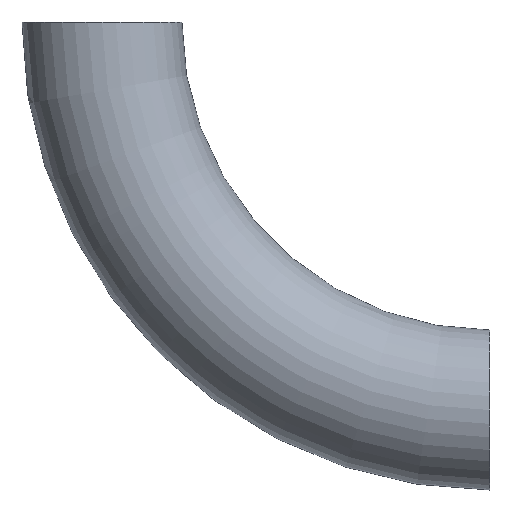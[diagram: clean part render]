
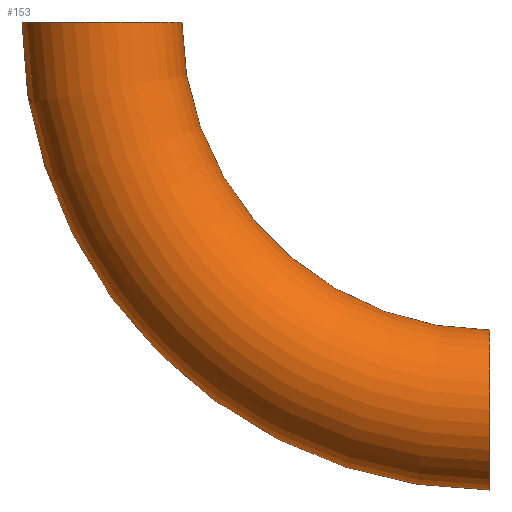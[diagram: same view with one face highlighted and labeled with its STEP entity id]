
A CAD part, front view. The second image highlights one B-rep face of the part: STEP entity #153.
In plain terms, the highlighted toroidal (fillet/blend) face has major radius 313 mm and minor radius 64.5 mm.
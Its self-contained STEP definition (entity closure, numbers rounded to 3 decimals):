
#1 = EDGE_CURVE ( 'NONE', #140, #199, #8, .T. ) ;
#8 = CIRCLE ( 'NONE', #143, 377.5 ) ;
#11 = VERTEX_POINT ( 'NONE', #39 ) ;
#33 = CARTESIAN_POINT ( 'NONE',  ( -377.5, 0., 0. ) ) ;
#39 = CARTESIAN_POINT ( 'NONE',  ( -248.5, 0., 0. ) ) ;
#43 = ORIENTED_EDGE ( 'NONE', *, *, #108, .F. ) ;
#45 = ORIENTED_EDGE ( 'NONE', *, *, #1, .F. ) ;
#49 = CARTESIAN_POINT ( 'NONE',  ( 0., 0., -313. ) ) ;
#52 = TOROIDAL_SURFACE ( 'NONE', #218, 313., 64.5 ) ;
#61 = ORIENTED_EDGE ( 'NONE', *, *, #112, .T. ) ;
#66 = CARTESIAN_POINT ( 'NONE',  ( 0., 0., 0. ) ) ;
#69 = AXIS2_PLACEMENT_3D ( 'NONE', #66, #188, #209 ) ;
#78 = VERTEX_POINT ( 'NONE', #221 ) ;
#86 = DIRECTION ( 'NONE',  ( 0., 0., 1. ) ) ;
#94 = DIRECTION ( 'NONE',  ( 0., 1., 0. ) ) ;
#106 = DIRECTION ( 'NONE',  ( 0., 0., 1. ) ) ;
#108 = EDGE_CURVE ( 'NONE', #199, #11, #110, .T. ) ;
#110 = CIRCLE ( 'NONE', #172, 64.5 ) ;
#112 = EDGE_CURVE ( 'NONE', #78, #11, #164, .T. ) ;
#118 = EDGE_CURVE ( 'NONE', #140, #78, #194, .T. ) ;
#126 = CARTESIAN_POINT ( 'NONE',  ( 0., 0., -377.5 ) ) ;
#140 = VERTEX_POINT ( 'NONE', #126 ) ;
#141 = EDGE_LOOP ( 'NONE', ( #45, #156, #61, #43 ) ) ;
#143 = AXIS2_PLACEMENT_3D ( 'NONE', #162, #94, #201 ) ;
#145 = DIRECTION ( 'NONE',  ( 0., 1., 0. ) ) ;
#153 = ADVANCED_FACE ( 'NONE', ( #166 ), #52, .T. ) ;
#156 = ORIENTED_EDGE ( 'NONE', *, *, #118, .T. ) ;
#157 = AXIS2_PLACEMENT_3D ( 'NONE', #49, #230, #86 ) ;
#162 = CARTESIAN_POINT ( 'NONE',  ( 0., 0., 0. ) ) ;
#164 = CIRCLE ( 'NONE', #69, 248.5 ) ;
#166 = FACE_OUTER_BOUND ( 'NONE', #141, .T. ) ;
#172 = AXIS2_PLACEMENT_3D ( 'NONE', #187, #106, #185 ) ;
#185 = DIRECTION ( 'NONE',  ( 1., 0., 0. ) ) ;
#187 = CARTESIAN_POINT ( 'NONE',  ( -313., 0., 0. ) ) ;
#188 = DIRECTION ( 'NONE',  ( 0., 1., 0. ) ) ;
#194 = CIRCLE ( 'NONE', #157, 64.5 ) ;
#199 = VERTEX_POINT ( 'NONE', #33 ) ;
#201 = DIRECTION ( 'NONE',  ( 0., 0., 1. ) ) ;
#205 = CARTESIAN_POINT ( 'NONE',  ( 0., 0., 0. ) ) ;
#209 = DIRECTION ( 'NONE',  ( 0., 0., 1. ) ) ;
#218 = AXIS2_PLACEMENT_3D ( 'NONE', #205, #145, #231 ) ;
#221 = CARTESIAN_POINT ( 'NONE',  ( 0., 0., -248.5 ) ) ;
#230 = DIRECTION ( 'NONE',  ( -1., 0., 0. ) ) ;
#231 = DIRECTION ( 'NONE',  ( 0., 0., 1. ) ) ;
